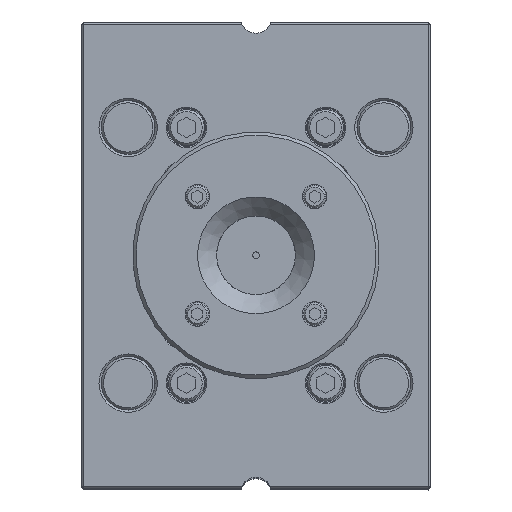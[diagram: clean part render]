
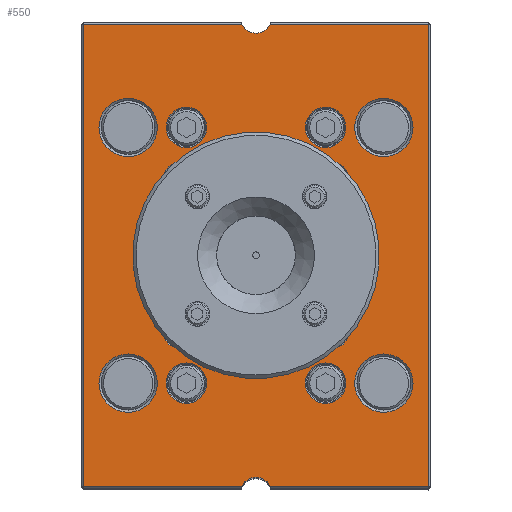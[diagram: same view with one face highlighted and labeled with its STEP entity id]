
A CAD part, top view. The second image highlights one B-rep face of the part: STEP entity #550.
In plain terms, the highlighted planar face has unit normal (0, 0, 1).
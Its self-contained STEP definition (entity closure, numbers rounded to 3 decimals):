
#114=CARTESIAN_POINT('',(84.325,207.,22.0));
#115=VERTEX_POINT('',#114);
#166=CARTESIAN_POINT('',(71.675,207.,22.0));
#167=VERTEX_POINT('',#166);
#175=CARTESIAN_POINT('',(78.,210.,22.0));
#176=DIRECTION('',(0.0,0.0,-1.0));
#177=DIRECTION('',(0.958,0.286,0.0));
#178=AXIS2_PLACEMENT_3D('',#175,#176,#177);
#179=CIRCLE('',#178,7.0);
#180=EDGE_CURVE('',#115,#167,#179,.T.);
#192=CARTESIAN_POINT('',(71.675,1.,22.0));
#193=VERTEX_POINT('',#192);
#244=CARTESIAN_POINT('',(84.325,1.,22.0));
#245=VERTEX_POINT('',#244);
#253=CARTESIAN_POINT('',(78.,-2.,22.0));
#254=DIRECTION('',(0.0,0.0,-1.0));
#255=DIRECTION('',(-0.958,-0.286,0.0));
#256=AXIS2_PLACEMENT_3D('',#253,#254,#255);
#257=CIRCLE('',#256,7.);
#258=EDGE_CURVE('',#193,#245,#257,.T.);
#277=CARTESIAN_POINT('',(1.,207.,22.0));
#278=VERTEX_POINT('',#277);
#285=CARTESIAN_POINT('',(1.0,207.,22.0));
#286=DIRECTION('',(1.0,0.0,0.0));
#287=VECTOR('',#286,70.675);
#288=LINE('',#285,#287);
#289=EDGE_CURVE('',#278,#167,#288,.T.);
#342=CARTESIAN_POINT('',(78.0,104.,22.0));
#343=DIRECTION('',(0.0,0.0,1.0));
#344=DIRECTION('',(1.0,0.0,0.0));
#345=AXIS2_PLACEMENT_3D('',#342,#343,#344);
#346=PLANE('',#345);
#347=ORIENTED_EDGE('',*,*,#180,.T.);
#348=ORIENTED_EDGE('',*,*,#289,.F.);
#349=CARTESIAN_POINT('',(1.,1.,22.0));
#350=VERTEX_POINT('',#349);
#351=CARTESIAN_POINT('',(1.,1.0,22.0));
#352=DIRECTION('',(0.0,1.0,0.0));
#353=VECTOR('',#352,206.);
#354=LINE('',#351,#353);
#355=EDGE_CURVE('',#350,#278,#354,.T.);
#356=ORIENTED_EDGE('',*,*,#355,.F.);
#357=CARTESIAN_POINT('',(71.675,1.,22.0));
#358=DIRECTION('',(-1.0,0.0,0.0));
#359=VECTOR('',#358,70.675);
#360=LINE('',#357,#359);
#361=EDGE_CURVE('',#193,#350,#360,.T.);
#362=ORIENTED_EDGE('',*,*,#361,.F.);
#363=ORIENTED_EDGE('',*,*,#258,.T.);
#364=CARTESIAN_POINT('',(155.,1.,22.0));
#365=VERTEX_POINT('',#364);
#366=CARTESIAN_POINT('',(155.,1.,22.0));
#367=DIRECTION('',(-1.0,0.0,0.0));
#368=VECTOR('',#367,70.675);
#369=LINE('',#366,#368);
#370=EDGE_CURVE('',#365,#245,#369,.T.);
#371=ORIENTED_EDGE('',*,*,#370,.F.);
#372=CARTESIAN_POINT('',(155.,207.0,22.0));
#373=VERTEX_POINT('',#372);
#374=CARTESIAN_POINT('',(155.,207.0,22.0));
#375=DIRECTION('',(0.0,-1.0,0.0));
#376=VECTOR('',#375,206.0);
#377=LINE('',#374,#376);
#378=EDGE_CURVE('',#373,#365,#377,.T.);
#379=ORIENTED_EDGE('',*,*,#378,.F.);
#380=CARTESIAN_POINT('',(84.325,207.,22.0));
#381=DIRECTION('',(1.0,0.0,0.0));
#382=VECTOR('',#381,70.675);
#383=LINE('',#380,#382);
#384=EDGE_CURVE('',#115,#373,#383,.T.);
#385=ORIENTED_EDGE('',*,*,#384,.F.);
#386=EDGE_LOOP('',(#347,#348,#356,#362,#363,#371,#379,#385));
#387=FACE_OUTER_BOUND('',#386,.T.);
#388=CARTESIAN_POINT('',(118.,47.,22.0));
#389=VERTEX_POINT('',#388);
#390=CARTESIAN_POINT('',(109.,47.,22.0));
#391=DIRECTION('',(0.0,0.0,1.0));
#392=DIRECTION('',(-1.0,0.0,0.0));
#393=AXIS2_PLACEMENT_3D('',#390,#391,#392);
#394=CIRCLE('',#393,9.);
#395=EDGE_CURVE('',#389,#389,#394,.T.);
#396=ORIENTED_EDGE('',*,*,#395,.F.);
#397=EDGE_LOOP('',(#396));
#398=FACE_BOUND('',#397,.T.);
#399=CARTESIAN_POINT('',(56.,161.0,22.0));
#400=VERTEX_POINT('',#399);
#401=CARTESIAN_POINT('',(47.,161.0,22.0));
#402=DIRECTION('',(0.0,0.0,1.0));
#403=DIRECTION('',(-1.0,0.0,0.0));
#404=AXIS2_PLACEMENT_3D('',#401,#402,#403);
#405=CIRCLE('',#404,9.0);
#406=EDGE_CURVE('',#400,#400,#405,.T.);
#407=ORIENTED_EDGE('',*,*,#406,.F.);
#408=EDGE_LOOP('',(#407));
#409=FACE_BOUND('',#408,.T.);
#410=CARTESIAN_POINT('',(56.,47.,22.0));
#411=VERTEX_POINT('',#410);
#412=CARTESIAN_POINT('',(47.,47.,22.0));
#413=DIRECTION('',(0.0,0.0,1.0));
#414=DIRECTION('',(-1.0,0.0,0.0));
#415=AXIS2_PLACEMENT_3D('',#412,#413,#414);
#416=CIRCLE('',#415,9.0);
#417=EDGE_CURVE('',#411,#411,#416,.T.);
#418=ORIENTED_EDGE('',*,*,#417,.F.);
#419=EDGE_LOOP('',(#418));
#420=FACE_BOUND('',#419,.T.);
#421=CARTESIAN_POINT('',(34.005,161.0,22.0));
#422=VERTEX_POINT('',#421);
#423=CARTESIAN_POINT('',(21.,161.0,22.0));
#424=DIRECTION('',(0.0,0.0,1.0));
#425=DIRECTION('',(-1.0,0.0,0.0));
#426=AXIS2_PLACEMENT_3D('',#423,#424,#425);
#427=CIRCLE('',#426,13.005);
#428=EDGE_CURVE('',#422,#422,#427,.T.);
#429=ORIENTED_EDGE('',*,*,#428,.F.);
#430=EDGE_LOOP('',(#429));
#431=FACE_BOUND('',#430,.T.);
#432=CARTESIAN_POINT('',(148.005,47.,22.0));
#433=VERTEX_POINT('',#432);
#434=CARTESIAN_POINT('',(135.0,47.,22.0));
#435=DIRECTION('',(0.0,0.0,1.0));
#436=DIRECTION('',(-1.0,0.0,0.0));
#437=AXIS2_PLACEMENT_3D('',#434,#435,#436);
#438=CIRCLE('',#437,13.005);
#439=EDGE_CURVE('',#433,#433,#438,.T.);
#440=ORIENTED_EDGE('',*,*,#439,.F.);
#441=EDGE_LOOP('',(#440));
#442=FACE_BOUND('',#441,.T.);
#443=CARTESIAN_POINT('',(34.005,47.,22.0));
#444=VERTEX_POINT('',#443);
#445=CARTESIAN_POINT('',(21.,47.,22.0));
#446=DIRECTION('',(0.0,0.0,1.0));
#447=DIRECTION('',(-1.0,0.0,0.0));
#448=AXIS2_PLACEMENT_3D('',#445,#446,#447);
#449=CIRCLE('',#448,13.005);
#450=EDGE_CURVE('',#444,#444,#449,.T.);
#451=ORIENTED_EDGE('',*,*,#450,.F.);
#452=EDGE_LOOP('',(#451));
#453=FACE_BOUND('',#452,.T.);
#454=CARTESIAN_POINT('',(148.005,161.0,22.0));
#455=VERTEX_POINT('',#454);
#456=CARTESIAN_POINT('',(135.0,161.0,22.0));
#457=DIRECTION('',(0.0,0.0,1.0));
#458=DIRECTION('',(-1.0,0.0,0.0));
#459=AXIS2_PLACEMENT_3D('',#456,#457,#458);
#460=CIRCLE('',#459,13.005);
#461=EDGE_CURVE('',#455,#455,#460,.T.);
#462=ORIENTED_EDGE('',*,*,#461,.F.);
#463=EDGE_LOOP('',(#462));
#464=FACE_BOUND('',#463,.T.);
#465=CARTESIAN_POINT('',(42.928,75.,22.0));
#466=VERTEX_POINT('',#465);
#467=CARTESIAN_POINT('',(49.,68.928,22.0));
#468=VERTEX_POINT('',#467);
#469=CARTESIAN_POINT('',(43.,69.0,22.0));
#470=DIRECTION('',(0.0,0.0,1.0));
#471=DIRECTION('',(-1.0,0.0,0.0));
#472=AXIS2_PLACEMENT_3D('',#469,#470,#471);
#473=CIRCLE('',#472,6.0);
#474=EDGE_CURVE('',#466,#468,#473,.T.);
#475=ORIENTED_EDGE('',*,*,#474,.F.);
#476=CARTESIAN_POINT('',(42.928,133.,22.0));
#477=VERTEX_POINT('',#476);
#478=CARTESIAN_POINT('',(78.0,104.,22.0));
#479=DIRECTION('',(0.0,0.0,1.0));
#480=DIRECTION('',(-1.0,0.0,0.0));
#481=AXIS2_PLACEMENT_3D('',#478,#479,#480);
#482=CIRCLE('',#481,45.509);
#483=EDGE_CURVE('',#477,#466,#482,.T.);
#484=ORIENTED_EDGE('',*,*,#483,.F.);
#485=CARTESIAN_POINT('',(49.,139.072,22.0));
#486=VERTEX_POINT('',#485);
#487=CARTESIAN_POINT('',(43.,139.0,22.0));
#488=DIRECTION('',(0.0,0.0,1.0));
#489=DIRECTION('',(-1.0,0.0,0.0));
#490=AXIS2_PLACEMENT_3D('',#487,#488,#489);
#491=CIRCLE('',#490,6.0);
#492=EDGE_CURVE('',#486,#477,#491,.T.);
#493=ORIENTED_EDGE('',*,*,#492,.F.);
#494=CARTESIAN_POINT('',(107.,139.072,22.0));
#495=VERTEX_POINT('',#494);
#496=CARTESIAN_POINT('',(78.0,104.,22.0));
#497=DIRECTION('',(0.0,0.0,1.0));
#498=DIRECTION('',(1.0,0.0,0.0));
#499=AXIS2_PLACEMENT_3D('',#496,#497,#498);
#500=CIRCLE('',#499,45.509);
#501=EDGE_CURVE('',#495,#486,#500,.T.);
#502=ORIENTED_EDGE('',*,*,#501,.F.);
#503=CARTESIAN_POINT('',(113.072,133.,22.0));
#504=VERTEX_POINT('',#503);
#505=CARTESIAN_POINT('',(113.0,139.0,22.0));
#506=DIRECTION('',(0.0,0.0,1.0));
#507=DIRECTION('',(1.0,0.0,0.0));
#508=AXIS2_PLACEMENT_3D('',#505,#506,#507);
#509=CIRCLE('',#508,6.0);
#510=EDGE_CURVE('',#504,#495,#509,.T.);
#511=ORIENTED_EDGE('',*,*,#510,.F.);
#512=CARTESIAN_POINT('',(113.072,75.,22.0));
#513=VERTEX_POINT('',#512);
#514=CARTESIAN_POINT('',(78.0,104.,22.0));
#515=DIRECTION('',(0.0,0.0,1.0));
#516=DIRECTION('',(1.0,0.0,0.0));
#517=AXIS2_PLACEMENT_3D('',#514,#515,#516);
#518=CIRCLE('',#517,45.509);
#519=EDGE_CURVE('',#513,#504,#518,.T.);
#520=ORIENTED_EDGE('',*,*,#519,.F.);
#521=CARTESIAN_POINT('',(107.,68.928,22.0));
#522=VERTEX_POINT('',#521);
#523=CARTESIAN_POINT('',(113.0,69.0,22.0));
#524=DIRECTION('',(0.0,0.0,1.0));
#525=DIRECTION('',(1.0,0.0,0.0));
#526=AXIS2_PLACEMENT_3D('',#523,#524,#525);
#527=CIRCLE('',#526,6.0);
#528=EDGE_CURVE('',#522,#513,#527,.T.);
#529=ORIENTED_EDGE('',*,*,#528,.F.);
#530=CARTESIAN_POINT('',(78.0,104.,22.0));
#531=DIRECTION('',(0.0,0.0,1.0));
#532=DIRECTION('',(1.0,0.0,0.0));
#533=AXIS2_PLACEMENT_3D('',#530,#531,#532);
#534=CIRCLE('',#533,45.509);
#535=EDGE_CURVE('',#468,#522,#534,.T.);
#536=ORIENTED_EDGE('',*,*,#535,.F.);
#537=EDGE_LOOP('',(#475,#484,#493,#502,#511,#520,#529,#536));
#538=FACE_BOUND('',#537,.T.);
#539=CARTESIAN_POINT('',(118.,161.0,22.0));
#540=VERTEX_POINT('',#539);
#541=CARTESIAN_POINT('',(109.,161.0,22.0));
#542=DIRECTION('',(0.0,0.0,1.0));
#543=DIRECTION('',(-1.0,0.0,0.0));
#544=AXIS2_PLACEMENT_3D('',#541,#542,#543);
#545=CIRCLE('',#544,9.);
#546=EDGE_CURVE('',#540,#540,#545,.T.);
#547=ORIENTED_EDGE('',*,*,#546,.F.);
#548=EDGE_LOOP('',(#547));
#549=FACE_BOUND('',#548,.T.);
#550=ADVANCED_FACE('',(#387,#398,#409,#420,#431,#442,#453,#464,#538,#549),#346,.T.);
